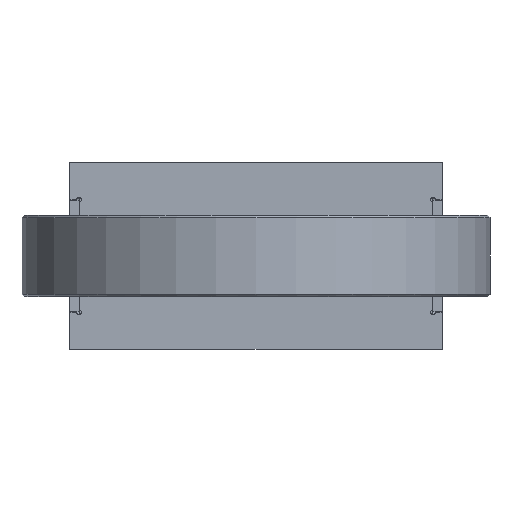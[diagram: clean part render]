
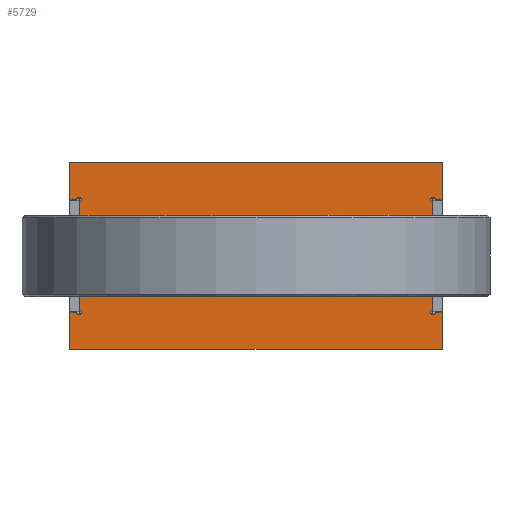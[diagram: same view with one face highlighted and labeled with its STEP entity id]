
A CAD part, front view. The second image highlights one B-rep face of the part: STEP entity #5729.
In plain terms, the highlighted planar face has unit normal (0, -1, 0) as drawn and (0, 0, -1) by its records, which use the part's own axes.
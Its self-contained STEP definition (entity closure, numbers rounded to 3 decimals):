
#242=PLANE('',#6146);
#565=LINE('',#9392,#1022);
#568=LINE('',#9398,#1025);
#571=LINE('',#9404,#1028);
#574=LINE('',#9410,#1031);
#577=LINE('',#9415,#1034);
#578=LINE('',#9417,#1035);
#579=LINE('',#9418,#1036);
#580=LINE('',#9419,#1037);
#581=LINE('',#9421,#1038);
#582=LINE('',#9423,#1039);
#583=LINE('',#9425,#1040);
#584=LINE('',#9426,#1041);
#585=LINE('',#9427,#1042);
#586=LINE('',#9429,#1043);
#587=LINE('',#9430,#1044);
#588=LINE('',#9431,#1045);
#589=LINE('',#9433,#1046);
#590=LINE('',#9435,#1047);
#591=LINE('',#9437,#1048);
#592=LINE('',#9438,#1049);
#1022=VECTOR('',#7126,3.);
#1025=VECTOR('',#7131,3.);
#1028=VECTOR('',#7136,3.);
#1031=VECTOR('',#7141,3.);
#1034=VECTOR('',#7146,14.5);
#1035=VECTOR('',#7147,3.);
#1036=VECTOR('',#7148,15.5);
#1037=VECTOR('',#7149,14.5);
#1038=VECTOR('',#7150,3.);
#1039=VECTOR('',#7151,15.75);
#1040=VECTOR('',#7152,160.);
#1041=VECTOR('',#7153,15.75);
#1042=VECTOR('',#7154,14.5);
#1043=VECTOR('',#7155,3.);
#1044=VECTOR('',#7156,15.5);
#1045=VECTOR('',#7157,14.5);
#1046=VECTOR('',#7158,3.);
#1047=VECTOR('',#7159,15.75);
#1048=VECTOR('',#7160,160.);
#1049=VECTOR('',#7161,15.75);
#1604=FACE_BOUND('',#2244,.T.);
#1605=FACE_BOUND('',#2245,.T.);
#1606=FACE_BOUND('',#2246,.T.);
#1840=FACE_OUTER_BOUND('',#2243,.T.);
#2243=EDGE_LOOP('',(#4709,#4710,#4711,#4712,#4713,#4714,#4715,#4716,#4717,
#4718,#4719,#4720,#4721,#4722,#4723,#4724,#4725,#4726,#4727,#4728,#4729,
#4730,#4731,#4732,#4733,#4734,#4735,#4736));
#2244=EDGE_LOOP('',(#4737));
#2245=EDGE_LOOP('',(#4738));
#2246=EDGE_LOOP('',(#4739));
#2538=CIRCLE('',#6110,5.5);
#2540=CIRCLE('',#6113,5.5);
#2542=CIRCLE('',#6116,17.5);
#2545=CIRCLE('',#6120,1.);
#2547=CIRCLE('',#6123,1.);
#2549=CIRCLE('',#6126,1.);
#2551=CIRCLE('',#6129,1.);
#2553=CIRCLE('',#6132,1.);
#2555=CIRCLE('',#6135,1.);
#2557=CIRCLE('',#6138,1.);
#2559=CIRCLE('',#6141,1.);
#2905=VERTEX_POINT('',#9304);
#2907=VERTEX_POINT('',#9309);
#2909=VERTEX_POINT('',#9314);
#2912=VERTEX_POINT('',#9320);
#2914=VERTEX_POINT('',#9324);
#2916=VERTEX_POINT('',#9329);
#2918=VERTEX_POINT('',#9333);
#2920=VERTEX_POINT('',#9338);
#2922=VERTEX_POINT('',#9342);
#2924=VERTEX_POINT('',#9347);
#2926=VERTEX_POINT('',#9351);
#2928=VERTEX_POINT('',#9356);
#2930=VERTEX_POINT('',#9360);
#2932=VERTEX_POINT('',#9365);
#2934=VERTEX_POINT('',#9369);
#2936=VERTEX_POINT('',#9374);
#2938=VERTEX_POINT('',#9378);
#2940=VERTEX_POINT('',#9383);
#2942=VERTEX_POINT('',#9387);
#2943=VERTEX_POINT('',#9391);
#2945=VERTEX_POINT('',#9397);
#2947=VERTEX_POINT('',#9403);
#2949=VERTEX_POINT('',#9409);
#2951=VERTEX_POINT('',#9416);
#2952=VERTEX_POINT('',#9420);
#2953=VERTEX_POINT('',#9422);
#2954=VERTEX_POINT('',#9424);
#2955=VERTEX_POINT('',#9428);
#2956=VERTEX_POINT('',#9432);
#2957=VERTEX_POINT('',#9434);
#2958=VERTEX_POINT('',#9436);
#3545=EDGE_CURVE('',#2905,#2905,#2538,.T.);
#3547=EDGE_CURVE('',#2907,#2907,#2540,.T.);
#3549=EDGE_CURVE('',#2909,#2909,#2542,.T.);
#3554=EDGE_CURVE('',#2912,#2914,#2545,.T.);
#3558=EDGE_CURVE('',#2916,#2918,#2547,.T.);
#3562=EDGE_CURVE('',#2920,#2922,#2549,.T.);
#3566=EDGE_CURVE('',#2924,#2926,#2551,.T.);
#3570=EDGE_CURVE('',#2928,#2930,#2553,.T.);
#3574=EDGE_CURVE('',#2932,#2934,#2555,.T.);
#3578=EDGE_CURVE('',#2936,#2938,#2557,.T.);
#3582=EDGE_CURVE('',#2940,#2942,#2559,.T.);
#3583=EDGE_CURVE('',#2912,#2943,#565,.T.);
#3586=EDGE_CURVE('',#2920,#2945,#568,.T.);
#3589=EDGE_CURVE('',#2928,#2947,#571,.T.);
#3592=EDGE_CURVE('',#2936,#2949,#574,.T.);
#3595=EDGE_CURVE('',#2916,#2914,#577,.T.);
#3596=EDGE_CURVE('',#2951,#2918,#578,.T.);
#3597=EDGE_CURVE('',#2945,#2951,#579,.T.);
#3598=EDGE_CURVE('',#2924,#2922,#580,.T.);
#3599=EDGE_CURVE('',#2952,#2926,#581,.T.);
#3600=EDGE_CURVE('',#2953,#2952,#582,.T.);
#3601=EDGE_CURVE('',#2954,#2953,#583,.T.);
#3602=EDGE_CURVE('',#2947,#2954,#584,.T.);
#3603=EDGE_CURVE('',#2932,#2930,#585,.T.);
#3604=EDGE_CURVE('',#2955,#2934,#586,.T.);
#3605=EDGE_CURVE('',#2949,#2955,#587,.T.);
#3606=EDGE_CURVE('',#2940,#2938,#588,.T.);
#3607=EDGE_CURVE('',#2956,#2942,#589,.T.);
#3608=EDGE_CURVE('',#2957,#2956,#590,.T.);
#3609=EDGE_CURVE('',#2958,#2957,#591,.T.);
#3610=EDGE_CURVE('',#2943,#2958,#592,.T.);
#4709=ORIENTED_EDGE('',*,*,#3554,.T.);
#4710=ORIENTED_EDGE('',*,*,#3595,.F.);
#4711=ORIENTED_EDGE('',*,*,#3558,.T.);
#4712=ORIENTED_EDGE('',*,*,#3596,.F.);
#4713=ORIENTED_EDGE('',*,*,#3597,.F.);
#4714=ORIENTED_EDGE('',*,*,#3586,.F.);
#4715=ORIENTED_EDGE('',*,*,#3562,.T.);
#4716=ORIENTED_EDGE('',*,*,#3598,.F.);
#4717=ORIENTED_EDGE('',*,*,#3566,.T.);
#4718=ORIENTED_EDGE('',*,*,#3599,.F.);
#4719=ORIENTED_EDGE('',*,*,#3600,.F.);
#4720=ORIENTED_EDGE('',*,*,#3601,.F.);
#4721=ORIENTED_EDGE('',*,*,#3602,.F.);
#4722=ORIENTED_EDGE('',*,*,#3589,.F.);
#4723=ORIENTED_EDGE('',*,*,#3570,.T.);
#4724=ORIENTED_EDGE('',*,*,#3603,.F.);
#4725=ORIENTED_EDGE('',*,*,#3574,.T.);
#4726=ORIENTED_EDGE('',*,*,#3604,.F.);
#4727=ORIENTED_EDGE('',*,*,#3605,.F.);
#4728=ORIENTED_EDGE('',*,*,#3592,.F.);
#4729=ORIENTED_EDGE('',*,*,#3578,.T.);
#4730=ORIENTED_EDGE('',*,*,#3606,.F.);
#4731=ORIENTED_EDGE('',*,*,#3582,.T.);
#4732=ORIENTED_EDGE('',*,*,#3607,.F.);
#4733=ORIENTED_EDGE('',*,*,#3608,.F.);
#4734=ORIENTED_EDGE('',*,*,#3609,.F.);
#4735=ORIENTED_EDGE('',*,*,#3610,.F.);
#4736=ORIENTED_EDGE('',*,*,#3583,.F.);
#4737=ORIENTED_EDGE('',*,*,#3545,.T.);
#4738=ORIENTED_EDGE('',*,*,#3547,.T.);
#4739=ORIENTED_EDGE('',*,*,#3549,.T.);
#5729=ADVANCED_FACE('',(#1840,#1604,#1605,#1606),#242,.F.);
#6110=AXIS2_PLACEMENT_3D('',#9305,#7044,#7045);
#6113=AXIS2_PLACEMENT_3D('',#9310,#7050,#7051);
#6116=AXIS2_PLACEMENT_3D('',#9315,#7056,#7057);
#6120=AXIS2_PLACEMENT_3D('',#9326,#7066,#7067);
#6123=AXIS2_PLACEMENT_3D('',#9335,#7074,#7075);
#6126=AXIS2_PLACEMENT_3D('',#9344,#7082,#7083);
#6129=AXIS2_PLACEMENT_3D('',#9353,#7090,#7091);
#6132=AXIS2_PLACEMENT_3D('',#9362,#7098,#7099);
#6135=AXIS2_PLACEMENT_3D('',#9371,#7106,#7107);
#6138=AXIS2_PLACEMENT_3D('',#9380,#7114,#7115);
#6141=AXIS2_PLACEMENT_3D('',#9389,#7122,#7123);
#6146=AXIS2_PLACEMENT_3D('',#9414,#7144,#7145);
#7044=DIRECTION('center_axis',(0.,0.,1.));
#7045=DIRECTION('ref_axis',(1.,0.,0.));
#7050=DIRECTION('center_axis',(0.,0.,1.));
#7051=DIRECTION('ref_axis',(1.,0.,0.));
#7056=DIRECTION('center_axis',(0.,0.,1.));
#7057=DIRECTION('ref_axis',(1.,0.,0.));
#7066=DIRECTION('center_axis',(0.,0.,1.));
#7067=DIRECTION('ref_axis',(1.,0.,0.));
#7074=DIRECTION('center_axis',(0.,0.,1.));
#7075=DIRECTION('ref_axis',(1.,0.,0.));
#7082=DIRECTION('center_axis',(0.,0.,1.));
#7083=DIRECTION('ref_axis',(1.,0.,0.));
#7090=DIRECTION('center_axis',(0.,0.,1.));
#7091=DIRECTION('ref_axis',(1.,0.,0.));
#7098=DIRECTION('center_axis',(0.,0.,1.));
#7099=DIRECTION('ref_axis',(1.,0.,0.));
#7106=DIRECTION('center_axis',(0.,0.,1.));
#7107=DIRECTION('ref_axis',(1.,0.,0.));
#7114=DIRECTION('center_axis',(0.,0.,1.));
#7115=DIRECTION('ref_axis',(1.,0.,0.));
#7122=DIRECTION('center_axis',(0.,0.,1.));
#7123=DIRECTION('ref_axis',(1.,0.,0.));
#7126=DIRECTION('',(1.,0.,0.));
#7131=DIRECTION('',(1.,0.,0.));
#7136=DIRECTION('',(-1.,0.,0.));
#7141=DIRECTION('',(-1.,0.,0.));
#7144=DIRECTION('center_axis',(0.,0.,1.));
#7145=DIRECTION('ref_axis',(1.,0.,0.));
#7146=DIRECTION('',(0.,1.,0.));
#7147=DIRECTION('',(-1.,0.,0.));
#7148=DIRECTION('',(0.,1.,0.));
#7149=DIRECTION('',(0.,1.,0.));
#7150=DIRECTION('',(-1.,0.,0.));
#7151=DIRECTION('',(0.,1.,0.));
#7152=DIRECTION('',(1.,0.,0.));
#7153=DIRECTION('',(0.,-1.,0.));
#7154=DIRECTION('',(0.,-1.,0.));
#7155=DIRECTION('',(1.,0.,0.));
#7156=DIRECTION('',(0.,-1.,0.));
#7157=DIRECTION('',(0.,-1.,0.));
#7158=DIRECTION('',(1.,0.,0.));
#7159=DIRECTION('',(0.,-1.,0.));
#7160=DIRECTION('',(-1.,0.,0.));
#7161=DIRECTION('',(0.,1.,0.));
#9304=CARTESIAN_POINT('',(-34.5,0.,0.));
#9305=CARTESIAN_POINT('Origin',(-29.,0.,0.));
#9309=CARTESIAN_POINT('',(23.5,0.,0.));
#9310=CARTESIAN_POINT('Origin',(29.,0.,0.));
#9314=CARTESIAN_POINT('',(-17.5,0.,0.));
#9315=CARTESIAN_POINT('Origin',(0.,0.,0.));
#9320=CARTESIAN_POINT('',(77.,24.25,0.));
#9324=CARTESIAN_POINT('',(76.,23.25,0.));
#9326=CARTESIAN_POINT('Origin',(76.,24.25,0.));
#9329=CARTESIAN_POINT('',(76.,8.75,0.));
#9333=CARTESIAN_POINT('',(77.,7.75,0.));
#9335=CARTESIAN_POINT('Origin',(76.,7.75,0.));
#9338=CARTESIAN_POINT('',(77.,-7.75,0.));
#9342=CARTESIAN_POINT('',(76.,-8.75,0.));
#9344=CARTESIAN_POINT('Origin',(76.,-7.75,0.));
#9347=CARTESIAN_POINT('',(76.,-23.25,0.));
#9351=CARTESIAN_POINT('',(77.,-24.25,0.));
#9353=CARTESIAN_POINT('Origin',(76.,-24.25,0.));
#9356=CARTESIAN_POINT('',(-77.,-24.25,0.));
#9360=CARTESIAN_POINT('',(-76.,-23.25,0.));
#9362=CARTESIAN_POINT('Origin',(-76.,-24.25,0.));
#9365=CARTESIAN_POINT('',(-76.,-8.75,0.));
#9369=CARTESIAN_POINT('',(-77.,-7.75,0.));
#9371=CARTESIAN_POINT('Origin',(-76.,-7.75,0.));
#9374=CARTESIAN_POINT('',(-77.,7.75,0.));
#9378=CARTESIAN_POINT('',(-76.,8.75,0.));
#9380=CARTESIAN_POINT('Origin',(-76.,7.75,0.));
#9383=CARTESIAN_POINT('',(-76.,23.25,0.));
#9387=CARTESIAN_POINT('',(-77.,24.25,0.));
#9389=CARTESIAN_POINT('Origin',(-76.,24.25,0.));
#9391=CARTESIAN_POINT('',(80.,24.25,0.));
#9392=CARTESIAN_POINT('',(76.,24.25,0.));
#9397=CARTESIAN_POINT('',(80.,-7.75,0.));
#9398=CARTESIAN_POINT('',(76.,-7.75,0.));
#9403=CARTESIAN_POINT('',(-80.,-24.25,0.));
#9404=CARTESIAN_POINT('',(-76.,-24.25,0.));
#9409=CARTESIAN_POINT('',(-80.,7.75,0.));
#9410=CARTESIAN_POINT('',(-76.,7.75,0.));
#9414=CARTESIAN_POINT('Origin',(0.,0.,
0.));
#9415=CARTESIAN_POINT('',(76.,7.75,0.));
#9416=CARTESIAN_POINT('',(80.,7.75,0.));
#9417=CARTESIAN_POINT('',(80.,7.75,0.));
#9418=CARTESIAN_POINT('',(80.,-7.75,0.));
#9419=CARTESIAN_POINT('',(76.,-24.25,0.));
#9420=CARTESIAN_POINT('',(80.,-24.25,0.));
#9421=CARTESIAN_POINT('',(80.,-24.25,0.));
#9422=CARTESIAN_POINT('',(80.,-40.,0.));
#9423=CARTESIAN_POINT('',(80.,-40.,0.));
#9424=CARTESIAN_POINT('',(-80.,-40.,0.));
#9425=CARTESIAN_POINT('',(-80.,-40.,0.));
#9426=CARTESIAN_POINT('',(-80.,-24.25,0.));
#9427=CARTESIAN_POINT('',(-76.,-7.75,0.));
#9428=CARTESIAN_POINT('',(-80.,-7.75,0.));
#9429=CARTESIAN_POINT('',(-80.,-7.75,0.));
#9430=CARTESIAN_POINT('',(-80.,7.75,0.));
#9431=CARTESIAN_POINT('',(-76.,24.25,0.));
#9432=CARTESIAN_POINT('',(-80.,24.25,0.));
#9433=CARTESIAN_POINT('',(-80.,24.25,0.));
#9434=CARTESIAN_POINT('',(-80.,40.,0.));
#9435=CARTESIAN_POINT('',(-80.,40.,0.));
#9436=CARTESIAN_POINT('',(80.,40.,0.));
#9437=CARTESIAN_POINT('',(80.,40.,0.));
#9438=CARTESIAN_POINT('',(80.,24.25,0.));
